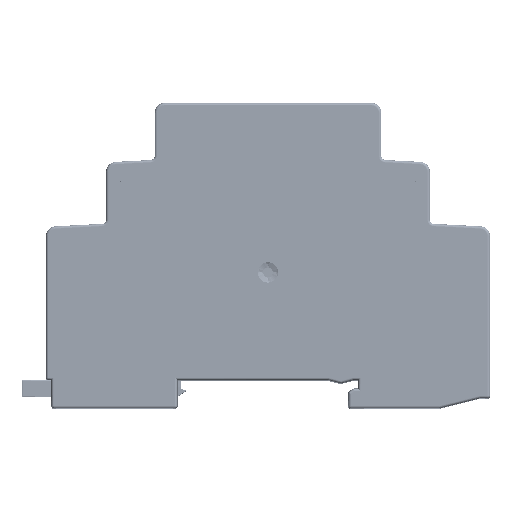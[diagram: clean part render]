
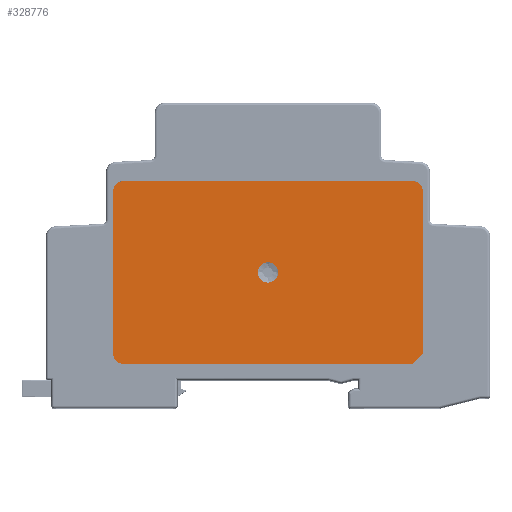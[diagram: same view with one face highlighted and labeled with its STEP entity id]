
A CAD part, top view. The second image highlights one B-rep face of the part: STEP entity #328776.
In plain terms, the highlighted planar face has unit normal (0, 0, 1) as drawn and (0, -1, 0) by its records, which use the part's own axes.
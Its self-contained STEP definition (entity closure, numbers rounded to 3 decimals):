
#302610=DIRECTION('',(1.,0.,0.));
#302611=VECTOR('',#302610,57.);
#302612=CARTESIAN_POINT('',(-28.5,0.2,-39.3));
#302613=LINE('',#302612,#302611);
#302694=CARTESIAN_POINT('',(-28.5,0.2,-37.3));
#302695=DIRECTION('',(0.,1.,0.));
#302696=DIRECTION('',(0.,0.,-1.));
#302697=AXIS2_PLACEMENT_3D('',#302694,#302695,#302696);
#302702=DIRECTION('',(0.,0.,1.));
#302703=VECTOR('',#302702,32.);
#302704=CARTESIAN_POINT('',(-30.5,0.2,-37.3));
#302705=LINE('',#302704,#302703);
#302709=DIRECTION('',(0.707,0.,0.707));
#302710=VECTOR('',#302709,2.828);
#302711=CARTESIAN_POINT('',(-30.5,0.2,-5.3));
#302712=LINE('',#302711,#302710);
#302716=DIRECTION('',(1.,0.,0.));
#302717=VECTOR('',#302716,57.);
#302718=CARTESIAN_POINT('',(-28.5,0.2,-3.3));
#302719=LINE('',#302718,#302717);
#302723=CARTESIAN_POINT('',(28.5,0.2,-5.3));
#302724=DIRECTION('',(0.,1.,0.));
#302725=DIRECTION('',(0.,0.,1.));
#302726=AXIS2_PLACEMENT_3D('',#302723,#302724,#302725);
#302731=DIRECTION('',(0.,0.,-1.));
#302732=VECTOR('',#302731,32.);
#302733=CARTESIAN_POINT('',(30.5,0.2,-5.3));
#302734=LINE('',#302733,#302732);
#302738=CARTESIAN_POINT('',(28.5,0.2,-37.3));
#302739=DIRECTION('',(0.,1.,0.));
#302740=DIRECTION('',(1.,0.,0.));
#302741=AXIS2_PLACEMENT_3D('',#302738,#302739,#302740);
#302746=CARTESIAN_POINT('',(0.,0.2,-21.3));
#302747=DIRECTION('',(0.,-1.,0.));
#302748=DIRECTION('',(-1.,0.,0.));
#302749=AXIS2_PLACEMENT_3D('',#302746,#302747,#302748);
#302754=CARTESIAN_POINT('',(0.,0.2,
-21.3));
#302755=DIRECTION('',(0.,-1.,0.));
#302756=DIRECTION('',(1.,0.,0.));
#302757=AXIS2_PLACEMENT_3D('',#302754,#302755,#302756);
#308585=CARTESIAN_POINT('',(-28.5,0.2,-39.3));
#308586=VERTEX_POINT('',#308585);
#308587=CARTESIAN_POINT('',(28.5,0.2,-39.3));
#308588=VERTEX_POINT('',#308587);
#308589=CARTESIAN_POINT('',(-30.5,0.2,-37.3));
#308590=VERTEX_POINT('',#308589);
#308591=CARTESIAN_POINT('',(-30.5,0.2,-5.3));
#308592=VERTEX_POINT('',#308591);
#308593=CARTESIAN_POINT('',(-28.5,0.2,-3.3));
#308594=VERTEX_POINT('',#308593);
#308595=CARTESIAN_POINT('',(28.5,0.2,-3.3));
#308596=VERTEX_POINT('',#308595);
#308597=CARTESIAN_POINT('',(30.5,0.2,-5.3));
#308598=VERTEX_POINT('',#308597);
#308599=CARTESIAN_POINT('',(30.5,0.2,-37.3));
#308600=VERTEX_POINT('',#308599);
#308601=CARTESIAN_POINT('',(-2.,0.2,
-21.3));
#308602=CARTESIAN_POINT('',(2.,0.2,
-21.3));
#308603=VERTEX_POINT('',#308601);
#308604=VERTEX_POINT('',#308602);
#328755=CARTESIAN_POINT('',(0.,0.2,0.));
#328756=DIRECTION('',(0.,-1.,0.));
#328757=DIRECTION('',(-1.,0.,0.));
#328758=AXIS2_PLACEMENT_3D('',#328755,#328756,#328757);
#328759=PLANE('',#328758);
#328760=ORIENTED_EDGE('',*,*,#328651,.F.);
#328761=ORIENTED_EDGE('',*,*,#328666,.T.);
#328762=ORIENTED_EDGE('',*,*,#328680,.T.);
#328763=ORIENTED_EDGE('',*,*,#328694,.T.);
#328764=ORIENTED_EDGE('',*,*,#328708,.T.);
#328765=ORIENTED_EDGE('',*,*,#328722,.T.);
#328766=ORIENTED_EDGE('',*,*,#328736,.T.);
#328767=ORIENTED_EDGE('',*,*,#328749,.T.);
#328768=EDGE_LOOP('',(#328760,#328761,#328762,#328763,#328764,#328765,#328766,
#328767));
#328769=FACE_OUTER_BOUND('',#328768,.F.);
#328771=ORIENTED_EDGE('',*,*,#328770,.T.);
#328773=ORIENTED_EDGE('',*,*,#328772,.T.);
#328774=EDGE_LOOP('',(#328771,#328773));
#328775=FACE_BOUND('',#328774,.F.);
#328776=ADVANCED_FACE('',(#328769,#328775),#328759,.T.);
#302698=CIRCLE('',#302697,2.);
#302727=CIRCLE('',#302726,2.);
#302742=CIRCLE('',#302741,2.);
#302750=CIRCLE('',#302749,2.);
#302758=CIRCLE('',#302757,2.);
#328651=EDGE_CURVE('',#308586,#308588,#302613,.T.);
#328666=EDGE_CURVE('',#308586,#308590,#302698,.T.);
#328680=EDGE_CURVE('',#308590,#308592,#302705,.T.);
#328694=EDGE_CURVE('',#308592,#308594,#302712,.T.);
#328708=EDGE_CURVE('',#308594,#308596,#302719,.T.);
#328722=EDGE_CURVE('',#308596,#308598,#302727,.T.);
#328736=EDGE_CURVE('',#308598,#308600,#302734,.T.);
#328749=EDGE_CURVE('',#308600,#308588,#302742,.T.);
#328770=EDGE_CURVE('',#308603,#308604,#302750,.T.);
#328772=EDGE_CURVE('',#308604,#308603,#302758,.T.);
